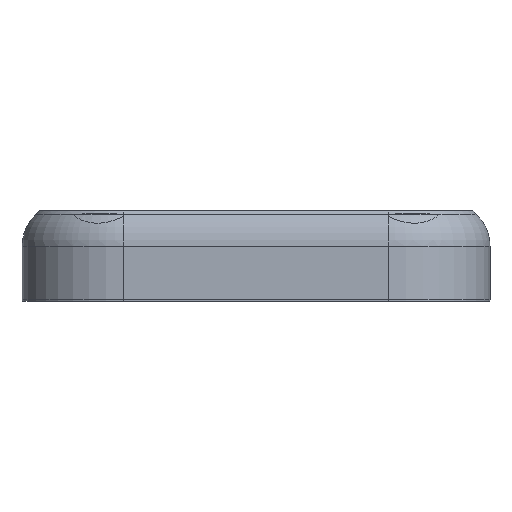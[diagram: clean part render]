
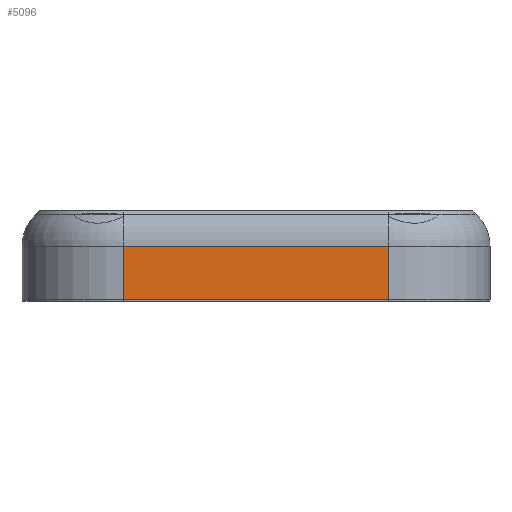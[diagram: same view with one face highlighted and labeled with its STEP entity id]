
A CAD part, front view. The second image highlights one B-rep face of the part: STEP entity #5096.
In plain terms, the highlighted planar face has unit normal (0, -1, 0).
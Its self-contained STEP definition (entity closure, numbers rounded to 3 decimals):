
#1939 = VERTEX_POINT('',#1940);
#1940 = CARTESIAN_POINT('',(56.75,-0.75,12.4));
#2844 = VERTEX_POINT('',#2845);
#2845 = CARTESIAN_POINT('',(56.75,-0.75,4.));
#2869 = EDGE_CURVE('',#2870,#2844,#2872,.T.);
#2870 = VERTEX_POINT('',#2871);
#2871 = CARTESIAN_POINT('',(15.25,-0.75,4.));
#2872 = LINE('',#2873,#2874);
#2873 = CARTESIAN_POINT('',(15.25,-0.75,4.));
#2874 = VECTOR('',#2875,1.);
#2875 = DIRECTION('',(1.,0.,0.));
#3985 = EDGE_CURVE('',#2844,#1939,#3986,.T.);
#3986 = LINE('',#3987,#3988);
#3987 = CARTESIAN_POINT('',(56.75,-0.75,0.));
#3988 = VECTOR('',#3989,1.);
#3989 = DIRECTION('',(0.,0.,1.));
#4143 = VERTEX_POINT('',#4144);
#4144 = CARTESIAN_POINT('',(15.25,-0.75,12.4));
#4151 = EDGE_CURVE('',#1939,#4143,#4152,.T.);
#4152 = LINE('',#4153,#4154);
#4153 = CARTESIAN_POINT('',(56.75,-0.75,12.4));
#4154 = VECTOR('',#4155,1.);
#4155 = DIRECTION('',(-1.,0.,-0.));
#5096 = ADVANCED_FACE('',(#5097),#5108,.T.);
#5097 = FACE_BOUND('',#5098,.T.);
#5098 = EDGE_LOOP('',(#5099,#5100,#5106,#5107));
#5099 = ORIENTED_EDGE('',*,*,#4151,.T.);
#5100 = ORIENTED_EDGE('',*,*,#5101,.T.);
#5101 = EDGE_CURVE('',#4143,#2870,#5102,.T.);
#5102 = LINE('',#5103,#5104);
#5103 = CARTESIAN_POINT('',(15.25,-0.75,19.4));
#5104 = VECTOR('',#5105,1.);
#5105 = DIRECTION('',(0.,0.,-1.));
#5106 = ORIENTED_EDGE('',*,*,#2869,.T.);
#5107 = ORIENTED_EDGE('',*,*,#3985,.T.);
#5108 = PLANE('',#5109);
#5109 = AXIS2_PLACEMENT_3D('',#5110,#5111,#5112);
#5110 = CARTESIAN_POINT('',(36.,-0.75,8.2));
#5111 = DIRECTION('',(-0.,-1.,-0.));
#5112 = DIRECTION('',(0.,0.,-1.));
